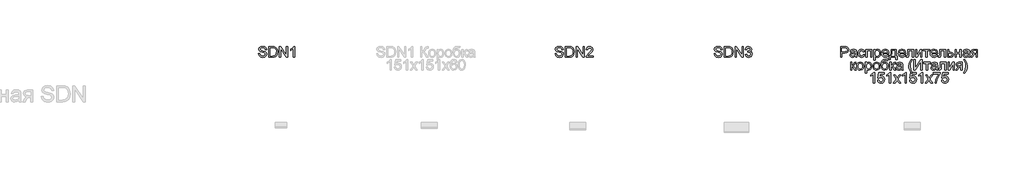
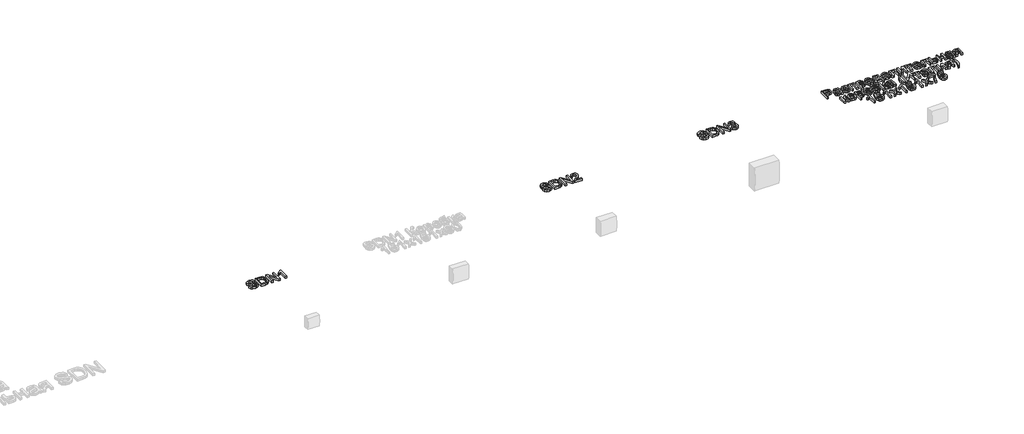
# One storey, part 6 of 28: 4 proxies.
"""IFC4 building model written with IfcOpenShell, lengths in millimetres."""

from ifc_helpers import new_model, si_unit, origin, origin_with_axes, place, context, project, spatial, polyline, outline, extrude, element, save

model = new_model("IFC4")

# Units and contexts
model_context = context("Model", 3, world=origin())
ifc_project = project(units=[si_unit("LENGTHUNIT", "METRE", prefix="MILLI")], contexts=[model_context])

# Site, building, storey
site = spatial("IfcSite", under=ifc_project)
building = spatial("IfcBuilding", under=site)
storey = spatial("IfcBuildingStorey", under=building, Name="Этаж 01", Elevation=0.0)

# Proxies
placement = place(None, origin())
element("IfcBuildingElementProxy", 1, Name="100 мм Arial", ObjectType="100 мм Arial", at=placement, inside=storey, context=model_context, shape_type="SweptSolid", body=[
    extrude(outline(polyline([(4669.8498165, -17996.4555668), (4682.4068553, -17996.4555668), (4686.4535572, -18009.0248683), (4696.3373202, -18016.9711194), (4711.3959565, -18020.0000145), (4724.517081, -18017.7068834), (4732.9906296, -18011.4038385), (4735.7742701, -18002.9793409), (4733.6896054, -17995.1434544), (4725.1547431, -17989.4412834), (4706.871008, -17984.6465548), (4687.1893212, -17978.4538745), (4676.5084806, -17969.1096718), (4672.9890762, -17956.6262095), (4677.3423465, -17942.4137017), (4690.0588008, -17932.382786), (4708.6736297, -17928.9614834), (4728.5392575, -17932.5422015), (4741.7830093, -17943.0636266), (4746.761679, -17958.7844505), (4734.2046402, -17958.7844505), (4731.8992464, -17951.2919205), (4727.092255, -17945.8840552), (4709.1641391, -17941.5185222), (4691.1869722, -17945.8350043), (4685.546115, -17956.2583275), (4689.543766, -17964.964868), (4710.0470559, -17971.9791514), (4732.2671284, -17978.2821962), (4744.4194969, -17988.4602648), (4748.3313088, -18002.6605098), (4743.8308858, -18017.6823579), (4730.8814395, -18028.6452414), (4711.8864658, -18032.5570533), (4689.4579269, -18028.3386731), (4675.2699446, -18015.6344815), (4669.8498165, -17996.4555668)])), origin_with_axes(), (0.0, 0.0, 1.0), 20.0),
    extrude(outline(polyline([(4767.166867, -18030.9874234), (4767.166867, -17930.5311133), (4801.8213509, -17930.5311133), (4819.7494668, -17931.9781158), (4834.5137976, -17939.1640774), (4846.4086487, -17956.3319039), (4850.3572488, -17980.2197081), (4847.683973, -18000.490006), (4840.8168424, -18015.1194467), (4831.644318, -18024.2306574), (4819.6391022, -18029.2706408), (4803.4890826, -18030.9874234), (4767.166867, -18030.9874234)]), holes=[polyline([(4779.7239057, -18018.4303847), (4801.9439783, -18018.4303847), (4818.1062606, -18016.6155001), (4827.4259378, -18011.4896777), (4835.0656206, -17999.018478), (4837.8002101, -17980.0235044), (4836.4605065, -17966.3382941), (4832.4413957, -17956.233802), (4819.4061103, -17945.0992403), (4801.6006217, -17943.088152), (4779.7239057, -17943.088152), (4779.7239057, -18018.4303847)])]), origin_with_axes(), (0.0, 0.0, 1.0), 20.0),
    extrude(outline(polyline([(4867.6231771, -18030.9874234), (4867.6231771, -17930.5311133), (4881.0631327, -17930.5311133), (4933.5476307, -18010.1162516), (4933.5476307, -17930.5311133), (4946.1046694, -17930.5311133), (4946.1046694, -18030.9874234), (4932.6647139, -18030.9874234), (4880.1802159, -17951.3777597), (4880.1802159, -18030.9874234), (4867.6231771, -18030.9874234)])), origin_with_axes(), (0.0, 0.0, 1.0), 20.0),
    extrude(outline(polyline([(5010.4594931, -18030.9874234), (4997.9024544, -18030.9874234), (4997.9024544, -17952.7021348), (4986.0076032, -17961.1756835), (4972.7883768, -17967.5155165), (4972.7883768, -17955.6451908), (4991.1947393, -17943.8974924), (5002.3660892, -17930.5311133), (5010.4594931, -17930.5311133), (5010.4594931, -18030.9874234)])), origin_with_axes(), (0.0, 0.0, 1.0), 20.0),
])
element("IfcBuildingElementProxy", 2, Name="100 мм Arial", ObjectType="100 мм Arial", at=placement, inside=storey, context=model_context, shape_type="SweptSolid", body=[
    extrude(outline(polyline([(7469.8498165, -17996.4555668), (7482.4068553, -17996.4555668), (7486.4535572, -18009.0248683), (7496.3373202, -18016.9711194), (7511.3959565, -18020.0000145), (7524.517081, -18017.7068834), (7532.9906296, -18011.4038385), (7535.7742701, -18002.9793409), (7533.6896054, -17995.1434544), (7525.1547431, -17989.4412834), (7506.871008, -17984.6465548), (7487.1893212, -17978.4538745), (7476.5084806, -17969.1096718), (7472.9890762, -17956.6262095), (7477.3423465, -17942.4137017), (7490.0588008, -17932.382786), (7508.6736297, -17928.9614834), (7528.5392575, -17932.5422015), (7541.7830093, -17943.0636266), (7546.761679, -17958.7844505), (7534.2046402, -17958.7844505), (7531.8992464, -17951.2919205), (7527.092255, -17945.8840552), (7509.1641391, -17941.5185222), (7491.1869722, -17945.8350043), (7485.546115, -17956.2583275), (7489.543766, -17964.964868), (7510.0470559, -17971.9791514), (7532.2671284, -17978.2821962), (7544.4194969, -17988.4602648), (7548.3313088, -18002.6605098), (7543.8308858, -18017.6823579), (7530.8814395, -18028.6452414), (7511.8864658, -18032.5570533), (7489.4579269, -18028.3386731), (7475.2699446, -18015.6344815), (7469.8498165, -17996.4555668)])), origin_with_axes(), (0.0, 0.0, 1.0), 20.0),
    extrude(outline(polyline([(7567.166867, -18030.9874234), (7567.166867, -17930.5311133), (7601.8213509, -17930.5311133), (7619.7494668, -17931.9781158), (7634.5137976, -17939.1640774), (7646.4086487, -17956.3319039), (7650.3572488, -17980.2197081), (7647.683973, -18000.490006), (7640.8168424, -18015.1194467), (7631.644318, -18024.2306574), (7619.6391022, -18029.2706408), (7603.4890826, -18030.9874234), (7567.166867, -18030.9874234)]), holes=[polyline([(7579.7239057, -18018.4303847), (7601.9439783, -18018.4303847), (7618.1062606, -18016.6155001), (7627.4259378, -18011.4896777), (7635.0656206, -17999.018478), (7637.8002101, -17980.0235044), (7636.4605065, -17966.3382941), (7632.4413957, -17956.233802), (7619.4061103, -17945.0992403), (7601.6006217, -17943.088152), (7579.7239057, -17943.088152), (7579.7239057, -18018.4303847)])]), origin_with_axes(), (0.0, 0.0, 1.0), 20.0),
    extrude(outline(polyline([(7667.6231771, -18030.9874234), (7667.6231771, -17930.5311133), (7681.0631327, -17930.5311133), (7733.5476307, -18010.1162516), (7733.5476307, -17930.5311133), (7746.1046694, -17930.5311133), (7746.1046694, -18030.9874234), (7732.6647139, -18030.9874234), (7680.1802159, -17951.3777597), (7680.1802159, -18030.9874234), (7667.6231771, -18030.9874234)])), origin_with_axes(), (0.0, 0.0, 1.0), 20.0),
    extrude(outline(polyline([(7827.7254214, -18018.4303847), (7827.7254214, -18030.9874234), (7761.8009679, -18030.9874234), (7763.1498685, -18022.3299338), (7770.7772886, -18009.0003428), (7786.4981125, -17994.4444786), (7808.1786248, -17973.5242558), (7813.5987528, -17959.2994853), (7808.4851931, -17947.7847788), (7795.1310767, -17943.088152), (7781.2128745, -17947.6744142), (7775.9276365, -17960.3540803), (7763.3705977, -17958.7844505), (7766.4148213, -17946.6382133), (7772.9968433, -17937.7661258), (7782.7733073, -17932.3398664), (7795.4008568, -17930.5311133), (7808.1203768, -17932.5422015), (7817.8784467, -17938.5754662), (7824.0864554, -17947.5885751), (7826.1557916, -17958.5391958), (7823.9239741, -17970.4463097), (7816.5050206, -17982.7580939), (7798.515591, -17999.9627085), (7784.0700913, -18012.0415007), (7778.4047086, -18018.4303847), (7827.7254214, -18018.4303847)])), origin_with_axes(), (0.0, 0.0, 1.0), 20.0),
])
element("IfcBuildingElementProxy", 3, Name="100 мм Arial", ObjectType="100 мм Arial", at=placement, inside=storey, context=model_context, shape_type="SweptSolid", body=[
    extrude(outline(polyline([(8969.8498165, -17996.4555668), (8982.4068553, -17996.4555668), (8986.4535572, -18009.0248683), (8996.3373202, -18016.9711194), (9011.3959565, -18020.0000145), (9024.517081, -18017.7068834), (9032.9906296, -18011.4038385), (9035.7742701, -18002.9793409), (9033.6896054, -17995.1434544), (9025.1547431, -17989.4412834), (9006.871008, -17984.6465548), (8987.1893212, -17978.4538745), (8976.5084806, -17969.1096718), (8972.9890762, -17956.6262095), (8977.3423465, -17942.4137017), (8990.0588008, -17932.382786), (9008.6736297, -17928.9614834), (9028.5392575, -17932.5422015), (9041.7830093, -17943.0636266), (9046.761679, -17958.7844505), (9034.2046402, -17958.7844505), (9031.8992464, -17951.2919205), (9027.092255, -17945.8840552), (9009.1641391, -17941.5185222), (8991.1869722, -17945.8350043), (8985.546115, -17956.2583275), (8989.543766, -17964.964868), (9010.0470559, -17971.9791514), (9032.2671284, -17978.2821962), (9044.4194969, -17988.4602648), (9048.3313088, -18002.6605098), (9043.8308858, -18017.6823579), (9030.8814395, -18028.6452414), (9011.8864658, -18032.5570533), (8989.4579269, -18028.3386731), (8975.2699446, -18015.6344815), (8969.8498165, -17996.4555668)])), origin_with_axes(), (0.0, 0.0, 1.0), 20.0),
    extrude(outline(polyline([(9067.166867, -18030.9874234), (9067.166867, -17930.5311133), (9101.8213509, -17930.5311133), (9119.7494668, -17931.9781158), (9134.5137976, -17939.1640774), (9146.4086487, -17956.3319039), (9150.3572488, -17980.2197081), (9147.683973, -18000.490006), (9140.8168424, -18015.1194467), (9131.644318, -18024.2306574), (9119.6391022, -18029.2706408), (9103.4890826, -18030.9874234), (9067.166867, -18030.9874234)]), holes=[polyline([(9079.7239057, -18018.4303847), (9101.9439783, -18018.4303847), (9118.1062606, -18016.6155001), (9127.4259378, -18011.4896777), (9135.0656206, -17999.018478), (9137.8002101, -17980.0235044), (9136.4605065, -17966.3382941), (9132.4413957, -17956.233802), (9119.4061103, -17945.0992403), (9101.6006217, -17943.088152), (9079.7239057, -17943.088152), (9079.7239057, -18018.4303847)])]), origin_with_axes(), (0.0, 0.0, 1.0), 20.0),
    extrude(outline(polyline([(9167.6231771, -18030.9874234), (9167.6231771, -17930.5311133), (9181.0631327, -17930.5311133), (9233.5476307, -18010.1162516), (9233.5476307, -17930.5311133), (9246.1046694, -17930.5311133), (9246.1046694, -18030.9874234), (9232.6647139, -18030.9874234), (9180.1802159, -17951.3777597), (9180.1802159, -18030.9874234), (9167.6231771, -18030.9874234)])), origin_with_axes(), (0.0, 0.0, 1.0), 20.0),
    extrude(outline(polyline([(9263.3705977, -18004.303716), (9275.9276365, -18002.7340862), (9282.8560808, -18015.9533126), (9295.8177897, -18020.0000145), (9304.4262284, -18018.6081943), (9311.0726298, -18014.4327336), (9316.7380125, -18000.6494216), (9311.1216807, -17987.6631871), (9296.8478593, -17982.5251019), (9288.0432169, -17983.898528), (9289.4411685, -17971.3414893), (9291.4522567, -17971.4886421), (9305.7015527, -17967.8833985), (9310.4472304, -17963.309399), (9312.029123, -17956.7978877), (9307.4428608, -17946.9754385), (9295.621586, -17943.088152), (9283.6531584, -17947.0122267), (9277.4972664, -17958.7844505), (9264.9402276, -17957.2148207), (9268.6374416, -17945.9392375), (9275.216398, -17937.5208712), (9284.2172441, -17932.2785527), (9295.1801276, -17930.5311133), (9310.3246031, -17933.9769413), (9320.9196045, -17943.3947204), (9324.5861617, -17956.0621237), (9321.1035455, -17967.6381439), (9310.8028497, -17975.9522769), (9324.4880599, -17984.5361902), (9329.2950513, -18000.8701507), (9326.8915556, -18013.1083585), (9319.6810685, -18023.3354779), (9308.7978928, -18030.2516594), (9295.3763313, -18032.5570533), (9283.2362255, -18030.5888846), (9273.3524625, -18024.6843786), (9266.4792006, -18015.6528756), (9263.3705977, -18004.303716)])), origin_with_axes(), (0.0, 0.0, 1.0), 20.0),
])
element("IfcBuildingElementProxy", 4, Name="100 мм Arial", ObjectType="100 мм Arial", at=placement, inside=storey, context=model_context, shape_type="SweptSolid", body=[
    extrude(outline(polyline([(10163.6697522, -18030.9874234), (10163.6697522, -17930.5311133), (10200.8994101, -17930.5311133), (10215.9089956, -17931.4876065), (10228.1104151, -17936.1842333), (10236.019878, -17945.8963179), (10239.0119848, -17959.5937909), (10236.9916996, -17971.4334598), (10230.9308437, -17981.2988286), (10219.5970126, -17987.9574927), (10201.7578015, -17990.1770474), (10176.226791, -17990.1770474), (10176.226791, -18030.9874234), (10163.6697522, -18030.9874234)]), holes=[polyline([(10176.226791, -17977.6200087), (10202.4935655, -17977.6200087), (10220.9857671, -17973.009221), (10225.0876513, -17967.4603342), (10226.4549461, -17960.0352493), (10223.2298473, -17949.6364516), (10214.7562986, -17943.9465434), (10202.1992599, -17943.088152), (10176.226791, -17943.088152), (10176.226791, -17977.6200087)])]), origin_with_axes(), (0.0, 0.0, 1.0), 20.0),
    extrude(outline(polyline([(10301.7971787, -18021.5696443), (10289.6202847, -18030.0799812), (10276.1680664, -18032.5570533), (10265.6742324, -18031.0671312), (10257.9333821, -18026.5973649), (10253.1601132, -18019.8099421), (10251.5690236, -18011.3670503), (10253.9725193, -18001.4342365), (10260.2878269, -17994.2237494), (10269.0802066, -17990.103471), (10279.9449882, -17988.2150101), (10301.7236023, -17983.898528), (10301.7971787, -17981.1026249), (10298.3390879, -17971.8319986), (10284.457674, -17968.2022296), (10271.7534824, -17970.617988), (10265.6956922, -17979.1896385), (10253.1386535, -17977.6200087), (10258.5710443, -17965.3572755), (10269.5094022, -17958.1713138), (10286.0763548, -17955.6451908), (10301.2944066, -17957.8770082), (10309.8905826, -17963.4810773), (10313.7410808, -17972.0036769), (10314.3542175, -17982.9910858), (10314.3542175, -17998.6138078), (10314.9918796, -18020.4292102), (10317.4934772, -18030.9874234), (10304.9364384, -18030.9874234), (10301.7971787, -18021.5696443)]), holes=[polyline([(10301.7971787, -17996.4555668), (10281.5391435, -18000.306065), (10270.7356756, -18002.3416787), (10265.842845, -18005.6526167), (10264.1260624, -18010.4841336), (10267.866196, -18017.2776877), (10278.8413422, -18020.0000145), (10291.5455338, -18016.9956449), (10299.7370395, -18009.7238441), (10301.7236023, -18000.0117594), (10301.7971787, -17996.4555668)])]), origin_with_axes(), (0.0, 0.0, 1.0), 20.0),
    extrude(outline(polyline([(10378.7090411, -18004.303716), (10391.2660799, -18005.8733459), (10387.7650696, -18017.0416301), (10381.1861132, -18025.4814562), (10372.1484789, -18030.788154), (10361.2714346, -18032.5570533), (10347.9142525, -18030.0891782), (10337.4694695, -18022.6855531), (10330.7280319, -18010.6711402), (10328.4808861, -17994.3709022), (10332.3191216, -17973.511993), (10344.017769, -17960.1088257), (10361.0997563, -17955.6451908), (10371.7100862, -17957.1780325), (10380.1928319, -17961.7765574), (10386.2782132, -17969.195511), (10389.6964501, -17979.1896385), (10377.1394113, -17980.7592683), (10371.314613, -17971.353752), (10361.1978582, -17968.2022296), (10353.0829945, -17969.7534653), (10346.6419939, -17974.4071726), (10342.4389421, -17982.4147373), (10341.0379248, -17994.0275456), (10342.4082853, -18005.7967038), (10346.5193666, -18013.8318597), (10352.8438712, -18018.4579758), (10360.8545016, -18020.0000145), (10372.6880392, -18016.1495163), (10378.7090411, -18004.303716)])), origin_with_axes(), (0.0, 0.0, 1.0), 20.0),
    extrude(outline(polyline([(10402.2534888, -17957.2148207), (10458.7601633, -17957.2148207), (10458.7601633, -18030.9874234), (10446.2031245, -18030.9874234), (10446.2031245, -17969.7718594), (10414.8105276, -17969.7718594), (10414.8105276, -18030.9874234), (10402.2534888, -18030.9874234), (10402.2534888, -17957.2148207)])), origin_with_axes(), (0.0, 0.0, 1.0), 20.0),
    extrude(outline(polyline([(10477.5957215, -18059.2407606), (10477.5957215, -17957.2148207), (10490.1527602, -17957.2148207), (10490.1527602, -17969.5266048), (10498.8347753, -17959.1155443), (10510.5579482, -17955.6451908), (10526.4749759, -17960.5012331), (10536.8737736, -17974.1864434), (10540.3809153, -17993.5370363), (10536.4200525, -18013.8809106), (10524.9176088, -18027.7377991), (10509.0373693, -18032.5570533), (10498.1112741, -18029.3319544), (10490.1527602, -18021.1772369), (10490.1527602, -18059.2407606), (10477.5957215, -18059.2407606)]), holes=[polyline([(10490.1527602, -17994.6897332), (10491.5108579, -18005.9469223), (10495.585151, -18013.819597), (10501.596956, -18018.4549101), (10508.7675892, -18020.0000145), (10516.0547184, -18018.3997278), (10522.2198075, -18013.5988678), (10526.4228593, -18005.4380189), (10527.8238765, -17993.7577655), (10526.4565818, -17982.5618901), (10522.3546975, -17974.5788508), (10516.3520896, -17969.7963849), (10509.282624, -17968.2022296), (10502.1855671, -17969.8975524), (10495.953033, -17974.983521), (10491.6028284, -17983.3007198), (10490.1527602, -17994.6897332)])]), origin_with_axes(), (0.0, 0.0, 1.0), 20.0),
    extrude(outline(polyline([(10606.158216, -18009.0126056), (10618.4700001, -18010.5822354), (10614.0339564, -18019.8589931), (10606.9552937, -18026.7935687), (10597.3934275, -18031.1161821), (10585.5077734, -18032.5570533), (10570.7740995, -18030.0707841), (10559.4372026, -18022.6119767), (10552.2083214, -18010.6650089), (10549.7986944, -17994.7142587), (10552.2328469, -17978.2270139), (10559.5353045, -17965.8968357), (10570.7189172, -17958.208102), (10584.7965348, -17955.6451908), (10598.4357598, -17958.2019707), (10609.3342639, -17965.8723103), (10616.4803717, -17978.177963), (10618.8624076, -17994.6406823), (10618.7888312, -17998.0251967), (10562.3557331, -17998.0251967), (10564.5293026, -18007.4245816), (10569.578483, -18014.3346318), (10576.8656122, -18018.5836688), (10585.753028, -18020.0000145), (10598.0648121, -18017.3757896), (10606.158216, -18009.0126056)]), holes=[polyline([(10562.3557331, -17985.4681579), (10606.3053688, -17985.4681579), (10601.2776482, -17974.0883415), (10593.9567965, -17969.6737576), (10584.7474839, -17968.2022296), (10569.2841774, -17972.8988564), (10564.418938, -17978.3894952), (10562.3557331, -17985.4681579)])]), origin_with_axes(), (0.0, 0.0, 1.0), 20.0),
    extrude(outline(polyline([(10642.4068553, -17957.2148207), (10689.4957507, -17957.2148207), (10689.4957507, -18018.4303847), (10698.9135298, -18018.4303847), (10698.9135298, -18051.3926114), (10686.356491, -18051.3926114), (10686.356491, -18030.9874234), (10634.5587061, -18030.9874234), (10634.5587061, -18051.3926114), (10622.0016673, -18051.3926114), (10622.0016673, -18018.4303847), (10629.8498165, -18018.4303847), (10639.5496385, -17994.4812668), (10642.4068553, -17957.2148207)]), holes=[polyline([(10653.3942642, -17969.7718594), (10650.4512083, -17998.3808159), (10643.9764851, -18018.4303847), (10676.9387119, -18018.4303847), (10676.9387119, -17969.7718594), (10653.3942642, -17969.7718594)])]), origin_with_axes(), (0.0, 0.0, 1.0), 20.0),
    extrude(outline(polyline([(10764.6908305, -18009.0126056), (10777.0026146, -18010.5822354), (10772.5665709, -18019.8589931), (10765.4879081, -18026.7935687), (10755.926042, -18031.1161821), (10744.0403878, -18032.5570533), (10729.3067139, -18030.0707841), (10717.9698171, -18022.6119767), (10710.7409359, -18010.6650089), (10708.3313088, -17994.7142587), (10710.7654614, -17978.2270139), (10718.067919, -17965.8968357), (10729.2515316, -17958.208102), (10743.3291493, -17955.6451908), (10756.9683743, -17958.2019707), (10767.8668784, -17965.8723103), (10775.0129861, -17978.177963), (10777.3950221, -17994.6406823), (10777.3214457, -17998.0251967), (10720.8883476, -17998.0251967), (10723.0619171, -18007.4245816), (10728.1110974, -18014.3346318), (10735.3982266, -18018.5836688), (10744.2856425, -18020.0000145), (10756.5974266, -18017.3757896), (10764.6908305, -18009.0126056)]), holes=[polyline([(10720.8883476, -17985.4681579), (10764.8379833, -17985.4681579), (10759.8102627, -17974.0883415), (10752.489411, -17969.6737576), (10743.2800984, -17968.2022296), (10727.8167918, -17972.8988564), (10722.9515525, -17978.3894952), (10720.8883476, -17985.4681579)])]), origin_with_axes(), (0.0, 0.0, 1.0), 20.0),
    extrude(outline(polyline([(10796.2305802, -17957.2148207), (10852.7372547, -17957.2148207), (10852.7372547, -18030.913847), (10840.1802159, -18030.913847), (10840.1802159, -17969.7718594), (10808.787619, -17969.7718594), (10808.787619, -18004.9659036), (10807.9414904, -18021.2017623), (10803.2939145, -18028.0566302), (10792.3065056, -18030.9874234), (10782.1039116, -18030.3497613), (10782.1039116, -18018.4303847), (10787.7202434, -18018.4303847), (10793.3978888, -18017.6578325), (10795.6664945, -18015.2052858), (10796.2305802, -18004.2546651), (10796.2305802, -17957.2148207)])), origin_with_axes(), (0.0, 0.0, 1.0), 20.0),
    extrude(outline(polyline([(10871.5728128, -17957.2148207), (10884.1298516, -17957.2148207), (10884.1298516, -18013.4762404), (10914.9828883, -17957.2148207), (10931.218747, -17957.2148207), (10931.218747, -18030.9874234), (10918.6617082, -18030.9874234), (10918.6617082, -17975.0693602), (10888.0048753, -18030.9874234), (10871.5728128, -18030.9874234), (10871.5728128, -17957.2148207)])), origin_with_axes(), (0.0, 0.0, 1.0), 20.0),
    extrude(outline(polyline([(10943.7757857, -17957.2148207), (11003.4217199, -17957.2148207), (11003.4217199, -17969.7718594), (10979.8772722, -17969.7718594), (10979.8772722, -18030.9874234), (10967.3202334, -18030.9874234), (10967.3202334, -17969.7718594), (10943.7757857, -17969.7718594), (10943.7757857, -17957.2148207)])), origin_with_axes(), (0.0, 0.0, 1.0), 20.0),
    extrude(outline(polyline([(11066.0597609, -18009.0126056), (11078.371545, -18010.5822354), (11073.9355013, -18019.8589931), (11066.8568386, -18026.7935687), (11057.2949724, -18031.1161821), (11045.4093183, -18032.5570533), (11030.6756444, -18030.0707841), (11019.3387475, -18022.6119767), (11012.1098663, -18010.6650089), (11009.7002393, -17994.7142587), (11012.1343918, -17978.2270139), (11019.4368494, -17965.8968357), (11030.6204621, -17958.208102), (11044.6980798, -17955.6451908), (11058.3373047, -17958.2019707), (11069.2358088, -17965.8723103), (11076.3819166, -17978.177963), (11078.7639525, -17994.6406823), (11078.6903761, -17998.0251967), (11022.257278, -17998.0251967), (11024.4308475, -18007.4245816), (11029.4800279, -18014.3346318), (11036.7671571, -18018.5836688), (11045.6545729, -18020.0000145), (11057.966357, -18017.3757896), (11066.0597609, -18009.0126056)]), holes=[polyline([(11022.257278, -17985.4681579), (11066.2069137, -17985.4681579), (11061.1791931, -17974.0883415), (11053.8583414, -17969.6737576), (11044.6490288, -17968.2022296), (11029.1857223, -17972.8988564), (11024.3204829, -17978.3894952), (11022.257278, -17985.4681579)])]), origin_with_axes(), (0.0, 0.0, 1.0), 20.0),
    extrude(outline(polyline([(11097.5995107, -17957.2148207), (11154.1061851, -17957.2148207), (11154.1061851, -18030.913847), (11141.5491463, -18030.913847), (11141.5491463, -17969.7718594), (11110.1565494, -17969.7718594), (11110.1565494, -18004.9659036), (11109.3104208, -18021.2017623), (11104.662845, -18028.0566302), (11093.675436, -18030.9874234), (11083.472842, -18030.3497613), (11083.472842, -18018.4303847), (11089.0891738, -18018.4303847), (11094.7668193, -18017.6578325), (11097.0354249, -18015.2052858), (11097.5995107, -18004.2546651), (11097.5995107, -17957.2148207)])), origin_with_axes(), (0.0, 0.0, 1.0), 20.0),
    extrude(outline(polyline([(11172.9417433, -17957.2148207), (11185.498782, -17957.2148207), (11185.498782, -17983.898528), (11199.9688072, -17983.898528), (11212.5135832, -17985.4712236), (11221.7964722, -17990.1893102), (11227.5354314, -17997.6726431), (11229.4484177, -18007.5410776), (11227.8205399, -18016.5265953), (11222.9369064, -18024.1080301), (11214.4725548, -18029.2675751), (11202.1025228, -18030.9874234), (11172.9417433, -18030.9874234), (11172.9417433, -17957.2148207)]), holes=[polyline([(11185.498782, -18018.4303847), (11197.221955, -18018.4303847), (11212.3664304, -18015.793897), (11216.891379, -18007.5656031), (11213.5436528, -17999.8400812), (11198.7180084, -17996.4555668), (11185.498782, -17996.4555668), (11185.498782, -18018.4303847)])]), origin_with_axes(), (0.0, 0.0, 1.0), 20.0),
    extrude(outline(polyline([(11245.1447162, -17957.2148207), (11257.701755, -17957.2148207), (11257.701755, -17985.4681579), (11290.6639817, -17985.4681579), (11290.6639817, -17957.2148207), (11303.2210205, -17957.2148207), (11303.2210205, -18030.9874234), (11290.6639817, -18030.9874234), (11290.6639817, -17998.0251967), (11257.701755, -17998.0251967), (11257.701755, -18030.9874234), (11245.1447162, -18030.9874234), (11245.1447162, -17957.2148207)])), origin_with_axes(), (0.0, 0.0, 1.0), 20.0),
    extrude(outline(polyline([(11369.145474, -18021.5696443), (11356.96858, -18030.0799812), (11343.5163617, -18032.5570533), (11333.0225278, -18031.0671312), (11325.2816775, -18026.5973649), (11320.5084086, -18019.8099421), (11318.917319, -18011.3670503), (11321.3208147, -18001.4342365), (11327.6361222, -17994.2237494), (11336.4285019, -17990.103471), (11347.2932835, -17988.2150101), (11369.0718976, -17983.898528), (11369.145474, -17981.1026249), (11365.6873833, -17971.8319986), (11351.8059693, -17968.2022296), (11339.1017778, -17970.617988), (11333.0439876, -17979.1896385), (11320.4869488, -17977.6200087), (11325.9193396, -17965.3572755), (11336.8576976, -17958.1713138), (11353.4246501, -17955.6451908), (11368.642702, -17957.8770082), (11377.2388779, -17963.4810773), (11381.0893761, -17972.0036769), (11381.7025128, -17982.9910858), (11381.7025128, -17998.6138078), (11382.3401749, -18020.4292102), (11384.8417725, -18030.9874234), (11372.2847337, -18030.9874234), (11369.145474, -18021.5696443)]), holes=[polyline([(11369.145474, -17996.4555668), (11348.8874388, -18000.306065), (11338.0839709, -18002.3416787), (11333.1911404, -18005.6526167), (11331.4743577, -18010.4841336), (11335.2144913, -18017.2776877), (11346.1896375, -18020.0000145), (11358.8938291, -18016.9956449), (11367.0853349, -18009.7238441), (11369.0718976, -18000.0117594), (11369.145474, -17996.4555668)])]), origin_with_axes(), (0.0, 0.0, 1.0), 20.0),
    extrude(outline(polyline([(11455.4751156, -17957.2148207), (11455.4751156, -18030.9874234), (11442.9180768, -18030.9874234), (11442.9180768, -18002.7340862), (11436.0754717, -18002.7340862), (11426.7557945, -18004.3282415), (11418.000203, -18015.0458703), (11407.9938127, -18030.9874234), (11393.4747366, -18030.9874234), (11406.0808263, -18010.8274901), (11416.7739297, -18000.3796414), (11408.1900165, -17997.7492852), (11402.1567517, -17992.7522214), (11397.3988113, -17978.5274509), (11399.0236234, -17969.931275), (11403.8980598, -17963.125458), (11411.8504423, -17958.69248), (11422.7090925, -17957.2148207), (11455.4751156, -17957.2148207)]), holes=[polyline([(11442.9180768, -17969.7718594), (11426.363387, -17969.7718594), (11412.9602197, -17972.6781272), (11409.95585, -17979.4839441), (11414.3826967, -17987.5896107), (11430.0667324, -17990.1770474), (11442.9180768, -17990.1770474), (11442.9180768, -17969.7718594)])]), origin_with_axes(), (0.0, 0.0, 1.0), 20.0),
    extrude(outline(polyline([(10257.847543, -18079.1896385), (10270.4045818, -18079.1896385), (10270.4045818, -18110.5822354), (10278.8168167, -18108.3258925), (10285.7084728, -18095.1802426), (10291.4351692, -18083.8372144), (10296.4874152, -18080.1461317), (10305.6722024, -18079.1896385), (10308.0756981, -18079.1896385), (10308.0756981, -18091.8202537), (10304.6911837, -18091.7466773), (10298.5598171, -18093.0710525), (10294.2433351, -18101.3361346), (10289.1788263, -18110.2756671), (10282.0787037, -18114.6534628), (10290.0004294, -18119.540162), (10297.7750022, -18129.8347265), (10311.2149578, -18152.9622413), (10296.9411364, -18152.9622413), (10283.7709609, -18130.3252358), (10277.149085, -18120.7480412), (10270.4045818, -18118.4303847), (10270.4045818, -18152.9622413), (10257.847543, -18152.9622413), (10257.847543, -18079.1896385)])), origin_with_axes(), (0.0, 0.0, 1.0), 20.0),
    extrude(outline(polyline([(10315.9238473, -18116.0759399), (10318.6400427, -18098.2888454), (10326.7886289, -18085.7869889), (10336.8563328, -18079.6617537), (10348.9105995, -18077.6200087), (10362.1022348, -18080.1062778), (10372.6389882, -18087.5650853), (10379.5459727, -18099.4078198), (10381.8483008, -18115.0458703), (10377.7770734, -18137.3885701), (10365.9190105, -18150.031448), (10348.9105995, -18154.5318711), (10335.5595488, -18152.054799), (10325.0350581, -18144.6235827), (10318.20165, -18132.5325278), (10315.9238473, -18116.0759399)]), holes=[polyline([(10328.4808861, -18116.0514144), (10329.93402, -18127.4159024), (10334.2934216, -18135.512372), (10340.8539838, -18140.3592172), (10348.9105995, -18141.9748323), (10356.930427, -18140.3500202), (10363.4787265, -18135.4755838), (10367.8381282, -18127.2718153), (10369.2912621, -18115.659007), (10367.8289311, -18104.6256128), (10363.4419383, -18096.6395078), (10356.8844418, -18091.7926625), (10348.9105995, -18090.1770474), (10340.8539838, -18091.7865312), (10334.2934216, -18096.6149823), (10329.93402, -18104.6930578), (10328.4808861, -18116.0514144)])]), origin_with_axes(), (0.0, 0.0, 1.0), 20.0),
    extrude(outline(polyline([(10395.9749695, -18181.2155785), (10395.9749695, -18079.1896385), (10408.5320082, -18079.1896385), (10408.5320082, -18091.5014226), (10417.2140233, -18081.0903621), (10428.9371962, -18077.6200087), (10444.8542239, -18082.476051), (10455.2530216, -18096.1612612), (10458.7601633, -18115.5118542), (10454.7993005, -18135.8557285), (10443.2968568, -18149.712617), (10427.4166173, -18154.5318711), (10416.4905221, -18151.3067723), (10408.5320082, -18143.1520547), (10408.5320082, -18181.2155785), (10395.9749695, -18181.2155785)]), holes=[polyline([(10408.5320082, -18116.6645511), (10409.8901059, -18127.9217401), (10413.964399, -18135.7944148), (10419.976204, -18140.429728), (10427.1468372, -18141.9748323), (10434.4339664, -18140.3745457), (10440.5990555, -18135.5736856), (10444.8021073, -18127.4128367), (10446.2031245, -18115.7325834), (10444.8358298, -18104.536708), (10440.7339455, -18096.5536687), (10434.7313376, -18091.7712027), (10427.661872, -18090.1770474), (10420.5648152, -18091.8723703), (10414.332281, -18096.9583389), (10409.9820764, -18105.2755376), (10408.5320082, -18116.6645511)])]), origin_with_axes(), (0.0, 0.0, 1.0), 20.0),
    extrude(outline(polyline([(10469.7475722, -18116.0759399), (10472.4637676, -18098.2888454), (10480.6123538, -18085.7869889), (10490.6800577, -18079.6617537), (10502.7343245, -18077.6200087), (10515.9259597, -18080.1062778), (10526.4627131, -18087.5650853), (10533.3696976, -18099.4078198), (10535.6720258, -18115.0458703), (10531.6007983, -18137.3885701), (10519.7427354, -18150.031448), (10502.7343245, -18154.5318711), (10489.3832737, -18152.054799), (10478.858783, -18144.6235827), (10472.0253749, -18132.5325278), (10469.7475722, -18116.0759399)]), holes=[polyline([(10482.304611, -18116.0514144), (10483.7577449, -18127.4159024), (10488.1171465, -18135.512372), (10494.6777088, -18140.3592172), (10502.7343245, -18141.9748323), (10510.754152, -18140.3500202), (10517.3024515, -18135.4755838), (10521.6618531, -18127.2718153), (10523.114987, -18115.659007), (10521.6526561, -18104.6256128), (10517.2656633, -18096.6395078), (10510.7081667, -18091.7926625), (10502.7343245, -18090.1770474), (10494.6777088, -18091.7865312), (10488.1171465, -18096.6149823), (10483.7577449, -18104.6930578), (10482.304611, -18116.0514144)])]), origin_with_axes(), (0.0, 0.0, 1.0), 20.0),
    extrude(outline(polyline([(10601.5964793, -18050.9363013), (10612.5838882, -18050.9363013), (10609.3465267, -18060.7342251), (10602.9453799, -18064.278155), (10587.5679125, -18065.0629699), (10566.8561562, -18067.9569749), (10558.9099051, -18077.2276012), (10556.2243666, -18093.6351382), (10567.1014109, -18081.6176597), (10581.1177149, -18077.6200087), (10594.1836571, -18080.1614601), (10604.7847899, -18087.7858145), (10611.811336, -18099.745045), (10614.1535181, -18115.291125), (10609.5059422, -18136.8980608), (10598.4817451, -18149.9333462), (10581.1177149, -18154.5318711), (10569.7838838, -18153.0511461), (10561.2888754, -18148.608971), (10550.4363565, -18133.4522328), (10546.6594347, -18101.2870837), (10549.0414706, -18077.1938787), (10556.1875784, -18062.5000587), (10568.2755676, -18055.004463), (10585.4832479, -18052.5059311), (10599.4627637, -18052.2238883), (10601.5964793, -18050.9363013)]), holes=[polyline([(10601.5964793, -18114.8987175), (10600.2353159, -18105.0180202), (10596.1518258, -18097.1054917), (10589.5912635, -18091.9091585), (10580.7988838, -18090.1770474), (10571.6324908, -18092.0072603), (10564.8328052, -18097.4978991), (10560.6205564, -18106.0480898), (10559.2164734, -18117.0569585), (10560.7677092, -18127.7286021), (10565.4214164, -18135.5614229), (10572.3498607, -18140.37148), (10580.7253074, -18141.9748323), (10589.1436738, -18140.1200939), (10595.8084692, -18134.5558788), (10600.1494768, -18125.9321117), (10601.5964793, -18114.8987175)])]), origin_with_axes(), (0.0, 0.0, 1.0), 20.0),
    extrude(outline(polyline([(10629.8498165, -18079.1896385), (10642.4068553, -18079.1896385), (10642.4068553, -18110.5822354), (10650.8190902, -18108.3258925), (10657.7107463, -18095.1802426), (10663.4374427, -18083.8372144), (10668.4896887, -18080.1461317), (10677.6744759, -18079.1896385), (10680.0779716, -18079.1896385), (10680.0779716, -18091.8202537), (10676.6934572, -18091.7466773), (10670.5620907, -18093.0710525), (10666.2456086, -18101.3361346), (10661.1810998, -18110.2756671), (10654.0809773, -18114.6534628), (10662.0027029, -18119.540162), (10669.7772757, -18129.8347265), (10683.2172313, -18152.9622413), (10668.9434099, -18152.9622413), (10655.7732344, -18130.3252358), (10649.1513585, -18120.7480412), (10642.4068553, -18118.4303847), (10642.4068553, -18152.9622413), (10629.8498165, -18152.9622413), (10629.8498165, -18079.1896385)])), origin_with_axes(), (0.0, 0.0, 1.0), 20.0),
    extrude(outline(polyline([(10738.1542759, -18143.5444622), (10725.9773819, -18152.054799), (10712.5251636, -18154.5318711), (10702.0313297, -18153.041949), (10694.2904793, -18148.5721828), (10689.5172105, -18141.78476), (10687.9261208, -18133.3418682), (10690.3296165, -18123.4090543), (10696.6449241, -18116.1985672), (10705.4373038, -18112.0782889), (10716.3020854, -18110.189828), (10738.0806995, -18105.8733459), (10738.1542759, -18103.0774427), (10734.6961851, -18093.8068164), (10720.8147712, -18090.1770474), (10708.1105796, -18092.5928059), (10702.0527894, -18101.1644563), (10689.4957507, -18099.5948265), (10694.9281415, -18087.3320933), (10705.8664995, -18080.1461317), (10722.433452, -18077.6200087), (10737.6515038, -18079.8518261), (10746.2476798, -18085.4558951), (10750.098178, -18093.9784947), (10750.7113147, -18104.9659036), (10750.7113147, -18120.5886257), (10751.3489768, -18142.404028), (10753.8505744, -18152.9622413), (10741.2935356, -18152.9622413), (10738.1542759, -18143.5444622)]), holes=[polyline([(10738.1542759, -18118.4303847), (10717.8962407, -18122.2808829), (10707.0927728, -18124.3164966), (10702.1999422, -18127.6274345), (10700.4831596, -18132.4589514), (10704.2232932, -18139.2525056), (10715.1984394, -18141.9748323), (10727.902631, -18138.9704627), (10736.0941367, -18131.6986619), (10738.0806995, -18121.9865773), (10738.1542759, -18118.4303847)])]), origin_with_axes(), (0.0, 0.0, 1.0), 20.0),
    extrude(outline(polyline([(10832.3320667, -18181.2155785), (10814.5020526, -18151.7604934), (10809.039005, -18134.5804042), (10807.2179891, -18116.7871784), (10812.6626427, -18086.2529728), (10832.3320667, -18052.5059311), (10841.7498457, -18052.5059311), (10830.0021474, -18072.3960843), (10822.9388131, -18091.6731009), (10819.7750279, -18116.8607548), (10825.2687324, -18149.0504294), (10841.7498457, -18181.2155785), (10832.3320667, -18181.2155785)])), origin_with_axes(), (0.0, 0.0, 1.0), 20.0),
    extrude(outline(polyline([(10855.8765144, -18052.5059311), (10868.4335531, -18052.5059311), (10868.4335531, -18132.0665439), (10921.016153, -18052.5059311), (10934.3580067, -18052.5059311), (10934.3580067, -18152.9622413), (10921.8009679, -18152.9622413), (10921.8009679, -18073.6223576), (10869.3409954, -18152.9622413), (10855.8765144, -18152.9622413), (10855.8765144, -18052.5059311)])), origin_with_axes(), (0.0, 0.0, 1.0), 20.0),
    extrude(outline(polyline([(10948.4846753, -18079.1896385), (11008.1306094, -18079.1896385), (11008.1306094, -18091.7466773), (10984.5861617, -18091.7466773), (10984.5861617, -18152.9622413), (10972.029123, -18152.9622413), (10972.029123, -18091.7466773), (10948.4846753, -18091.7466773), (10948.4846753, -18079.1896385)])), origin_with_axes(), (0.0, 0.0, 1.0), 20.0),
    extrude(outline(polyline([(11066.2069137, -18143.5444622), (11054.0300197, -18152.054799), (11040.5778014, -18154.5318711), (11030.0839675, -18153.041949), (11022.3431172, -18148.5721828), (11017.5698483, -18141.78476), (11015.9787587, -18133.3418682), (11018.3822544, -18123.4090543), (11024.6975619, -18116.1985672), (11033.4899416, -18112.0782889), (11044.3547232, -18110.189828), (11066.1333373, -18105.8733459), (11066.2069137, -18103.0774427), (11062.748823, -18093.8068164), (11048.867409, -18090.1770474), (11036.1632175, -18092.5928059), (11030.1054273, -18101.1644563), (11017.5483885, -18099.5948265), (11022.9807793, -18087.3320933), (11033.9191373, -18080.1461317), (11050.4860898, -18077.6200087), (11065.7041417, -18079.8518261), (11074.3003176, -18085.4558951), (11078.1508158, -18093.9784947), (11078.7639525, -18104.9659036), (11078.7639525, -18120.5886257), (11079.4016146, -18142.404028), (11081.9032122, -18152.9622413), (11069.3461734, -18152.9622413), (11066.2069137, -18143.5444622)]), holes=[polyline([(11066.2069137, -18118.4303847), (11045.9488785, -18122.2808829), (11035.1454106, -18124.3164966), (11030.2525801, -18127.6274345), (11028.5357974, -18132.4589514), (11032.275931, -18139.2525056), (11043.2510772, -18141.9748323), (11055.9552688, -18138.9704627), (11064.1467746, -18131.6986619), (11066.1333373, -18121.9865773), (11066.2069137, -18118.4303847)])]), origin_with_axes(), (0.0, 0.0, 1.0), 20.0),
    extrude(outline(polyline([(11102.3084002, -18079.1896385), (11158.8150747, -18079.1896385), (11158.8150747, -18152.8886649), (11146.2580359, -18152.8886649), (11146.2580359, -18091.7466773), (11114.865439, -18091.7466773), (11114.865439, -18126.9407215), (11114.0193104, -18143.1765802), (11109.3717345, -18150.031448), (11098.3843256, -18152.9622413), (11088.1817316, -18152.3245791), (11088.1817316, -18140.4052025), (11093.7980634, -18140.4052025), (11099.4757088, -18139.6326503), (11101.7443145, -18137.1801037), (11102.3084002, -18126.2294829), (11102.3084002, -18079.1896385)])), origin_with_axes(), (0.0, 0.0, 1.0), 20.0),
    extrude(outline(polyline([(11177.6506328, -18079.1896385), (11190.2076716, -18079.1896385), (11190.2076716, -18135.4510583), (11221.0607082, -18079.1896385), (11237.296567, -18079.1896385), (11237.296567, -18152.9622413), (11224.7395282, -18152.9622413), (11224.7395282, -18097.044178), (11194.0826953, -18152.9622413), (11177.6506328, -18152.9622413), (11177.6506328, -18079.1896385)])), origin_with_axes(), (0.0, 0.0, 1.0), 20.0),
    extrude(outline(polyline([(11312.6387996, -18079.1896385), (11312.6387996, -18152.9622413), (11300.0817608, -18152.9622413), (11300.0817608, -18124.708904), (11293.2391557, -18124.708904), (11283.9194785, -18126.3030593), (11275.163887, -18137.0206881), (11265.1574967, -18152.9622413), (11250.6384207, -18152.9622413), (11263.2445104, -18132.8023079), (11273.9376137, -18122.3544593), (11265.3537005, -18119.724103), (11259.3204357, -18114.7270392), (11254.5624953, -18100.5022688), (11256.1873074, -18091.9060928), (11261.0617438, -18085.1002759), (11269.0141263, -18080.6672978), (11279.8727765, -18079.1896385), (11312.6387996, -18079.1896385)]), holes=[polyline([(11300.0817608, -18091.7466773), (11283.527071, -18091.7466773), (11270.1239037, -18094.652945), (11267.119534, -18101.4587619), (11271.5463807, -18109.5644286), (11287.2304164, -18112.1518653), (11300.0817608, -18112.1518653), (11300.0817608, -18091.7466773)])]), origin_with_axes(), (0.0, 0.0, 1.0), 20.0),
    extrude(outline(polyline([(11334.6136174, -18181.2155785), (11325.1958383, -18181.2155785), (11341.6769517, -18149.0504294), (11347.1706562, -18116.8607548), (11344.006871, -18091.8938301), (11337.0171131, -18072.5922881), (11325.1958383, -18052.5059311), (11334.6136174, -18052.5059311), (11354.2830414, -18086.2529728), (11359.727695, -18116.7871784), (11357.897482, -18134.5804042), (11352.4068432, -18151.7604934), (11334.6136174, -18181.2155785)])), origin_with_axes(), (0.0, 0.0, 1.0), 20.0),
    extrude(outline(polyline([(10483.8742408, -18274.9370591), (10471.3172021, -18274.9370591), (10471.3172021, -18196.6517705), (10459.4223509, -18205.1253192), (10446.2031245, -18211.4651522), (10446.2031245, -18199.5948265), (10464.609487, -18187.8471281), (10475.7808369, -18174.480749), (10483.8742408, -18174.480749), (10483.8742408, -18274.9370591)])), origin_with_axes(), (0.0, 0.0, 1.0), 20.0),
    extrude(outline(polyline([(10513.6972079, -18248.2533517), (10526.2542467, -18246.6837219), (10532.581817, -18259.6209054), (10545.7029415, -18263.9496502), (10554.7037876, -18262.4443997), (10561.4482909, -18257.9286482), (10565.6605397, -18250.9235619), (10567.0646227, -18241.9503069), (10561.8039101, -18227.0388233), (10555.1973627, -18222.9369391), (10545.8991452, -18221.5696443), (10534.8749481, -18223.7524108), (10527.8238765, -18229.4177936), (10515.2668378, -18227.8481637), (10526.2542467, -18176.0503788), (10574.9127719, -18176.0503788), (10574.9127719, -18188.6074176), (10536.4077897, -18188.6074176), (10531.0367126, -18216.2721436), (10540.0069019, -18210.8274901), (10549.4062869, -18209.0126056), (10561.1386569, -18211.2628171), (10570.8783327, -18218.0134517), (10577.4358293, -18228.3018849), (10579.6216614, -18241.165492), (10577.6534928, -18253.7225307), (10571.7489868, -18264.464685), (10560.4427468, -18273.496188), (10545.6538906, -18276.506689), (10533.3206467, -18274.5722428), (10523.4951317, -18268.7689043), (10516.7598255, -18259.7711239), (10513.6972079, -18248.2533517)])), origin_with_axes(), (0.0, 0.0, 1.0), 20.0),
    extrude(outline(polyline([(10637.6979658, -18274.9370591), (10625.140927, -18274.9370591), (10625.140927, -18196.6517705), (10613.2460758, -18205.1253192), (10600.0268494, -18211.4651522), (10600.0268494, -18199.5948265), (10618.4332119, -18187.8471281), (10629.6045619, -18174.480749), (10637.6979658, -18174.480749), (10637.6979658, -18274.9370591)])), origin_with_axes(), (0.0, 0.0, 1.0), 20.0),
    extrude(outline(polyline([(10662.8120433, -18274.9370591), (10689.6429035, -18237.854554), (10664.3816731, -18201.1644563), (10679.4893604, -18201.1644563), (10691.6785172, -18218.8227921), (10697.3684254, -18227.1614507), (10702.2980441, -18220.343371), (10716.1794581, -18201.1644563), (10731.2871453, -18201.1644563), (10704.7505907, -18237.854554), (10730.3061267, -18274.9370591), (10715.1984394, -18274.9370591), (10699.820972, -18252.6434102), (10697.0005434, -18248.5721828), (10677.9197306, -18274.9370591), (10662.8120433, -18274.9370591)])), origin_with_axes(), (0.0, 0.0, 1.0), 20.0),
    extrude(outline(polyline([(10785.2431713, -18274.9370591), (10772.6861325, -18274.9370591), (10772.6861325, -18196.6517705), (10760.7912813, -18205.1253192), (10747.572055, -18211.4651522), (10747.572055, -18199.5948265), (10765.9784175, -18187.8471281), (10777.1497674, -18174.480749), (10785.2431713, -18174.480749), (10785.2431713, -18274.9370591)])), origin_with_axes(), (0.0, 0.0, 1.0), 20.0),
    extrude(outline(polyline([(10815.0661384, -18248.2533517), (10827.6231771, -18246.6837219), (10833.9507474, -18259.6209054), (10847.0718719, -18263.9496502), (10856.0727181, -18262.4443997), (10862.8172213, -18257.9286482), (10867.0294702, -18250.9235619), (10868.4335531, -18241.9503069), (10863.1728406, -18227.0388233), (10856.5662931, -18222.9369391), (10847.2680757, -18221.5696443), (10836.2438786, -18223.7524108), (10829.192807, -18229.4177936), (10816.6357682, -18227.8481637), (10827.6231771, -18176.0503788), (10876.2817024, -18176.0503788), (10876.2817024, -18188.6074176), (10837.7767202, -18188.6074176), (10832.4056431, -18216.2721436), (10841.3758324, -18210.8274901), (10850.7752174, -18209.0126056), (10862.5075873, -18211.2628171), (10872.2472631, -18218.0134517), (10878.8047597, -18228.3018849), (10880.9905919, -18241.165492), (10879.0224232, -18253.7225307), (10873.1179172, -18264.464685), (10861.8116772, -18273.496188), (10847.022821, -18276.506689), (10834.6895771, -18274.5722428), (10824.8640622, -18268.7689043), (10818.128756, -18259.7711239), (10815.0661384, -18248.2533517)])), origin_with_axes(), (0.0, 0.0, 1.0), 20.0),
    extrude(outline(polyline([(10939.0668962, -18274.9370591), (10926.5098574, -18274.9370591), (10926.5098574, -18196.6517705), (10914.6150063, -18205.1253192), (10901.3957799, -18211.4651522), (10901.3957799, -18199.5948265), (10919.8021424, -18187.8471281), (10930.9734923, -18174.480749), (10939.0668962, -18174.480749), (10939.0668962, -18274.9370591)])), origin_with_axes(), (0.0, 0.0, 1.0), 20.0),
    extrude(outline(polyline([(10964.1809737, -18274.9370591), (10991.0118339, -18237.854554), (10965.7506036, -18201.1644563), (10980.8582909, -18201.1644563), (10993.0474476, -18218.8227921), (10998.7373558, -18227.1614507), (11003.6669746, -18220.343371), (11017.5483885, -18201.1644563), (11032.6560758, -18201.1644563), (11006.1195212, -18237.854554), (11031.6750571, -18274.9370591), (11016.5673699, -18274.9370591), (11001.1899025, -18252.6434102), (10998.3694738, -18248.5721828), (10979.288661, -18274.9370591), (10964.1809737, -18274.9370591)])), origin_with_axes(), (0.0, 0.0, 1.0), 20.0),
    extrude(outline(polyline([(11039.5232064, -18188.6074176), (11039.5232064, -18176.0503788), (11105.4476599, -18176.0503788), (11105.4476599, -18186.2039219), (11086.7469918, -18213.2187231), (11072.4363822, -18247.6402151), (11067.7765436, -18274.9370591), (11055.2195048, -18274.9370591), (11060.2104372, -18246.6101455), (11073.9079102, -18214.5921492), (11092.8906211, -18188.6074176), (11039.5232064, -18188.6074176)])), origin_with_axes(), (0.0, 0.0, 1.0), 20.0),
    extrude(outline(polyline([(11116.4350688, -18248.2533517), (11128.9921076, -18246.6837219), (11135.3196779, -18259.6209054), (11148.4408024, -18263.9496502), (11157.4416485, -18262.4443997), (11164.1861518, -18257.9286482), (11168.3984006, -18250.9235619), (11169.8024836, -18241.9503069), (11164.541771, -18227.0388233), (11157.9352235, -18222.9369391), (11148.6370061, -18221.5696443), (11137.612809, -18223.7524108), (11130.5617374, -18229.4177936), (11118.0046987, -18227.8481637), (11128.9921076, -18176.0503788), (11177.6506328, -18176.0503788), (11177.6506328, -18188.6074176), (11139.1456506, -18188.6074176), (11133.7745735, -18216.2721436), (11142.7447628, -18210.8274901), (11152.1441478, -18209.0126056), (11163.8765178, -18211.2628171), (11173.6161936, -18218.0134517), (11180.1736902, -18228.3018849), (11182.3595223, -18241.165492), (11180.3913537, -18253.7225307), (11174.4868476, -18264.464685), (11163.1806077, -18273.496188), (11148.3917515, -18276.506689), (11136.0585076, -18274.5722428), (11126.2329926, -18268.7689043), (11119.4976864, -18259.7711239), (11116.4350688, -18248.2533517)])), origin_with_axes(), (0.0, 0.0, 1.0), 20.0),
])

save(model, "model.ifc")
